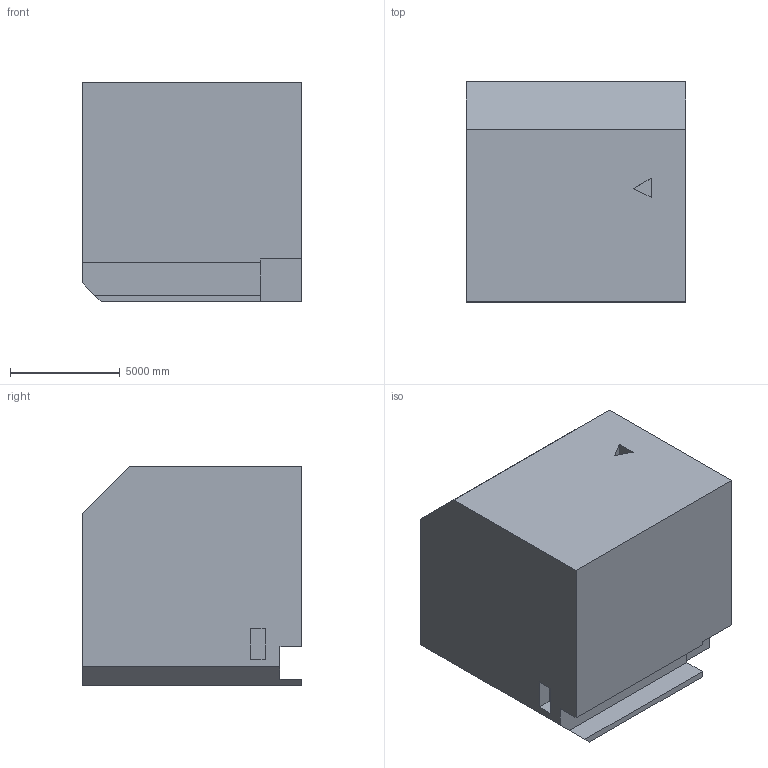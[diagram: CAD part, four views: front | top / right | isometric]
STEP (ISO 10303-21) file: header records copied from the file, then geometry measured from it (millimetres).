
FILE_DESCRIPTION (( 'STEP AP203' ), '1' );
FILE_NAME ('81.STEP', '2022-08-30T14:26:43', ( 'user' ), ( '' ), 'SwSTEP 2.0', 'SolidWorks 2021', '' );
FILE_SCHEMA (( 'CONFIG_CONTROL_DESIGN' ));
Length unit declared in the file: centimetre
Products named in the file (1): 81
Bounding box: 10000 x 10000 x 10000 mm (x, y, z)
Volume: 946699257356.3 mm3; surface area: 612421386.6 mm2
Topology: 1 solids, 1 shells, 35 faces, 90 edges, 60 vertices
Faces by surface type: plane 33, cylinder 2
Entity records: 1125 total; most frequent: CARTESIAN_POINT 186, ORIENTED_EDGE 180, DIRECTION 166, EDGE_CURVE 90, LINE 86, VECTOR 86, VERTEX_POINT 60, AXIS2_PLACEMENT_3D 40
